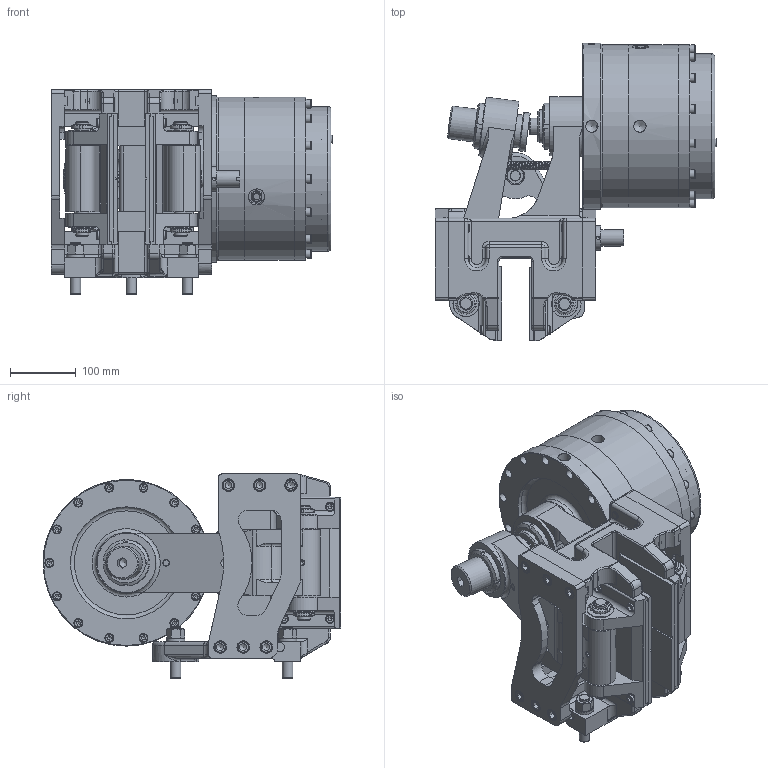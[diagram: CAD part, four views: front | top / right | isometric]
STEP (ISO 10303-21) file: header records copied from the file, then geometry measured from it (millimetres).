
FILE_DESCRIPTION(/* description */ ('','CAx-IF Rec.Pracs.---Representation and Presentation of Product Manufacturing Information (PMI)---4.0---2014-10-13'),/* implementation_level */ '2;1');
FILE_NAME(/* name */ 'X:\INVENTOR\DISEGNI\19_Pinze\STEP x Sito\PNEUM-NEGATIVE-PR\19_76_066_06 PPT-N066_40_PR.stp',/* time_stamp */ '2018-10-25T16:37:00+02:00',/* author */ ('stefano'),/* organization */ (''),/* preprocessor_version */ 'ST-DEVELOPER v17',/* originating_system */ 'Autodesk Inventor 2018',/* authorisation */ '');
FILE_SCHEMA (('AP242_MANAGED_MODEL_BASED_3D_ENGINEERING_MIM_LF { 1 0 10303 442 1 1 4 }'));
Products named in the file (1): 19_76_066_06 PPT-N066_40_PR_Substitute_1
Bounding box: 428.25 x 452.5 x 310 mm (x, y, z)
Volume: 12452057.3 mm3; surface area: 1577124.3 mm2
Topology: 1 solids, 1 shells, 2164 faces, 5982 edges, 3956 vertices
Faces by surface type: plane 1080, cylinder 607, torus 214, cone 211, bspline 32, sphere 20
Full cylindrical faces by diameter (mm): 1.8 x2, 2.5 x1, 4.917 x6, 5 x4, 5.25 x4, 6.3 x6, 6.647 x1, 6.917 x1, 7.4 x1, 7.5 x2, 8 x8, 8.25 x1, 8.376 x1, 8.5 x8, 8.917 x2, 9 x1, 9.188 x1, 10 x6, 10.106 x6, 10.5 x5, 11.445 x2, 12 x16, 12.5 x13, 13 x36, 13.157 x2, 13.5 x22, 14 x1, 15 x2, 16 x6, 16.5 x4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
Entity records: 81730 total; most frequent: CARTESIAN_POINT 24444, ORIENTED_EDGE 11772, DIRECTION 11759, EDGE_CURVE 5886, AXIS2_PLACEMENT_3D 4555, VERTEX_POINT 3956, LINE 2649, VECTOR 2649
